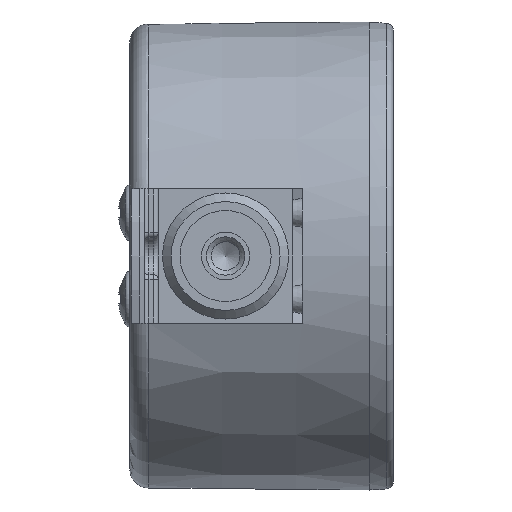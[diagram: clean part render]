
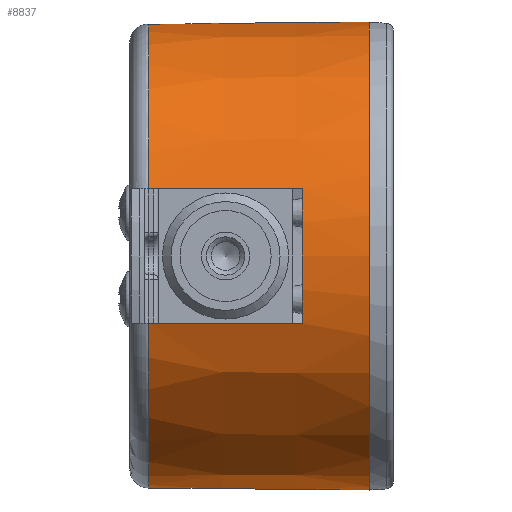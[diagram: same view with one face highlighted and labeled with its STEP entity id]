
A CAD part, front view. The second image highlights one B-rep face of the part: STEP entity #8837.
In plain terms, the highlighted conical face has half-angle 0.5 degrees and reference radius 24.3 mm.
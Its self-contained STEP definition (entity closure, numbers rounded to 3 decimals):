
#391=FACE_BOUND('',#1810,.T.);
#527=CONICAL_SURFACE('',#9642,24.3,0.009);
#1279=FACE_OUTER_BOUND('',#1809,.T.);
#1809=EDGE_LOOP('',(#6584));
#1810=EDGE_LOOP('',(#6585,#6586,#6587,#6588));
#2454=LINE('',#12827,#3247);
#2458=LINE('',#12852,#3251);
#3247=VECTOR('',#10495,10.);
#3251=VECTOR('',#10533,10.);
#4045=CIRCLE('',#9638,24.339);
#4047=CIRCLE('',#9641,24.199);
#4048=CIRCLE('',#9643,24.4);
#4288=VERTEX_POINT('',#12824);
#4289=VERTEX_POINT('',#12826);
#4292=VERTEX_POINT('',#12849);
#4293=VERTEX_POINT('',#12851);
#4295=VERTEX_POINT('',#12863);
#5179=EDGE_CURVE('',#4289,#4288,#2454,.T.);
#5191=EDGE_CURVE('',#4293,#4292,#2458,.T.);
#5194=EDGE_CURVE('',#4292,#4289,#4045,.T.);
#5196=EDGE_CURVE('',#4293,#4288,#4047,.T.);
#5197=EDGE_CURVE('',#4295,#4295,#4048,.T.);
#6584=ORIENTED_EDGE('',*,*,#5197,.T.);
#6585=ORIENTED_EDGE('',*,*,#5191,.T.);
#6586=ORIENTED_EDGE('',*,*,#5194,.T.);
#6587=ORIENTED_EDGE('',*,*,#5179,.T.);
#6588=ORIENTED_EDGE('',*,*,#5196,.F.);
#8837=ADVANCED_FACE('',(#1279,#391),#527,.T.);
#9638=AXIS2_PLACEMENT_3D('',#12857,#10542,#10543);
#9641=AXIS2_PLACEMENT_3D('',#12861,#10548,#10549);
#9642=AXIS2_PLACEMENT_3D('',#12862,#10550,#10551);
#9643=AXIS2_PLACEMENT_3D('',#12864,#10552,#10553);
#10495=DIRECTION('',(0.,-1.,-0.009));
#10533=DIRECTION('',(0.,1.,0.009));
#10542=DIRECTION('center_axis',(0.,1.,0.));
#10543=DIRECTION('ref_axis',(1.,0.,0.));
#10548=DIRECTION('center_axis',(0.,-1.,0.));
#10549=DIRECTION('ref_axis',(1.,0.,0.));
#10550=DIRECTION('center_axis',(0.,1.,0.));
#10551=DIRECTION('ref_axis',(1.,0.,0.));
#10552=DIRECTION('center_axis',(0.,-1.,0.));
#10553=DIRECTION('ref_axis',(1.,0.,0.));
#12824=CARTESIAN_POINT('',(7.,1.983,23.165));
#12826=CARTESIAN_POINT('',(7.,18.,23.311));
#12827=CARTESIAN_POINT('',(7.,18.,23.311));
#12849=CARTESIAN_POINT('',(-7.,18.,23.311));
#12851=CARTESIAN_POINT('',(-7.,1.983,23.165));
#12852=CARTESIAN_POINT('',(-7.,1.983,23.165));
#12857=CARTESIAN_POINT('Origin',(0.,18.,0.));
#12861=CARTESIAN_POINT('Origin',(0.,1.983,
0.));
#12862=CARTESIAN_POINT('Origin',(0.,13.491,
0.));
#12863=CARTESIAN_POINT('',(24.4,25.,0.));
#12864=CARTESIAN_POINT('Origin',(0.,25.,0.));
